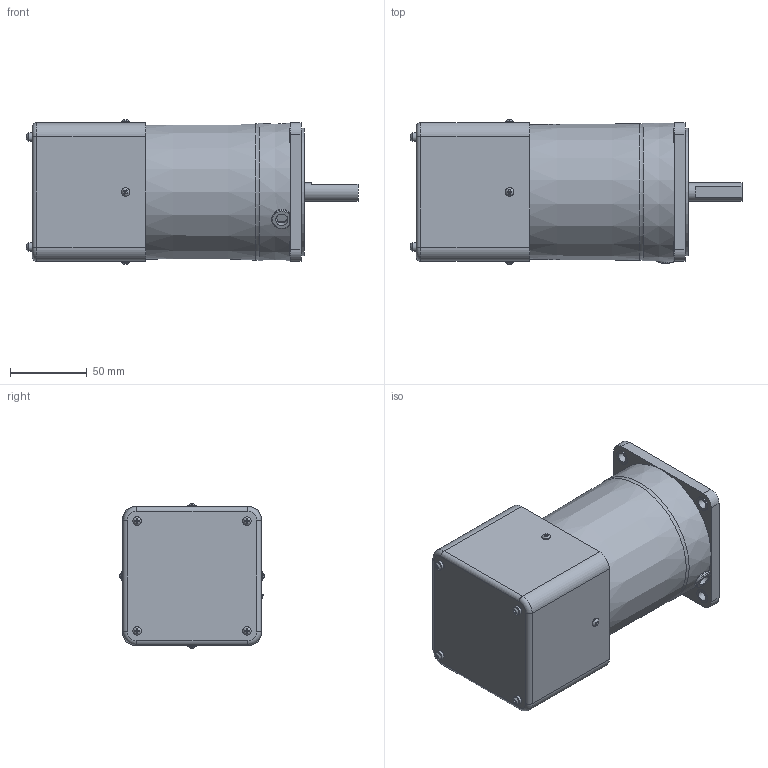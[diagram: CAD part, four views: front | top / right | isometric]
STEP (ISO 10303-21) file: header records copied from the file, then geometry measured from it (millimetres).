
FILE_DESCRIPTION((''),'2;1');
FILE_NAME('D:\STP파일\90W MOTOR\SPEED CONTROL\S9I90D-S.stp','2013-05-20T18:48:04',('leebh'),(''),'Autodesk Inventor 2011','Autodesk Inventor 2011','');
FILE_SCHEMA(('AUTOMOTIVE_DESIGN { 1 0 10303 214 1 1 1 1 }'));
Length unit declared in the file: millimetre
Products named in the file (1): S9I90G-T1
Bounding box: 215.75 x 93.89 x 93.89 mm (x, y, z)
Volume: 966159.6 mm3; surface area: 105373.8 mm2
Topology: 1 solids, 7 shells, 284 faces, 681 edges, 439 vertices
Faces by surface type: plane 175, cylinder 69, torus 26, bspline 8, cone 6
Full cylindrical faces by diameter (mm): 3 x8, 4.5 x4, 5.6 x12, 6.5 x4, 8 x1, 9.5 x4, 10 x1, 12 x1, 40 x1, 83 x1
Entity records: 8601 total; most frequent: CARTESIAN_POINT 2213, DIRECTION 1226, ORIENTED_EDGE 1196, EDGE_CURVE 598, AXIS2_PLACEMENT_3D 452, VERTEX_POINT 425, EDGE_LOOP 399, VECTOR 322
